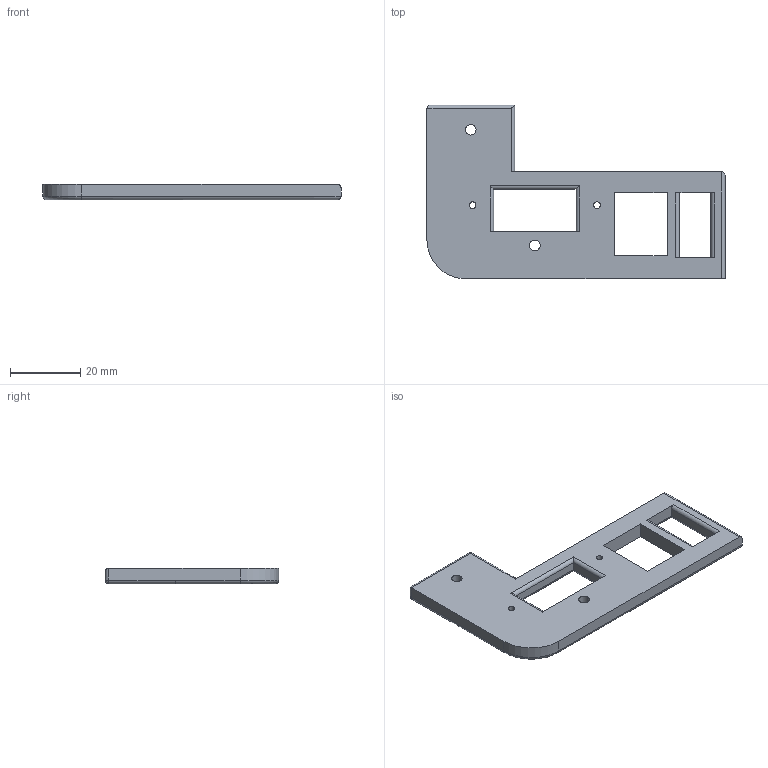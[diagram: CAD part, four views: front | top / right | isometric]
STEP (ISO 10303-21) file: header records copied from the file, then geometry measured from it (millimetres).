
FILE_DESCRIPTION(('Open CASCADE Model'),'2;1');
FILE_NAME('gripper-side-cover.step','2026-11-14T14:31:48',('Author'),( 'Open CASCADE'),'Open CASCADE STEP processor 8.0','Open CASCADE 8.0' ,'Unknown');
FILE_SCHEMA(('AP242_MANAGED_MODEL_BASED_3D_ENGINEERING_MIM_LF {1 0 10303 442 1 1 4 }' ));
Length unit declared in the file: millimetre
Products named in the file (1): Gripper Side Cover
Bounding box: 85 x 49.5 x 4.41 mm (x, y, z)
Volume: 9985.8 mm3; surface area: 6558.6 mm2
Topology: 1 solids, 1 shells, 70 faces, 178 edges, 110 vertices
Faces by surface type: plane 34, cylinder 33, sphere 2, torus 1
Entity records: 5112 total; most frequent: CARTESIAN_POINT 1579, DIRECTION 649, LINE 417, VECTOR 417, ORIENTED_EDGE 352, PCURVE 352, DEFINITIONAL_REPRESENTATION 352, EDGE_CURVE 176
